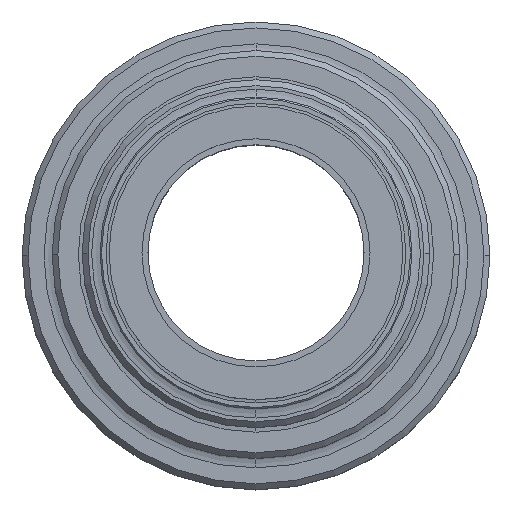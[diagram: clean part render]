
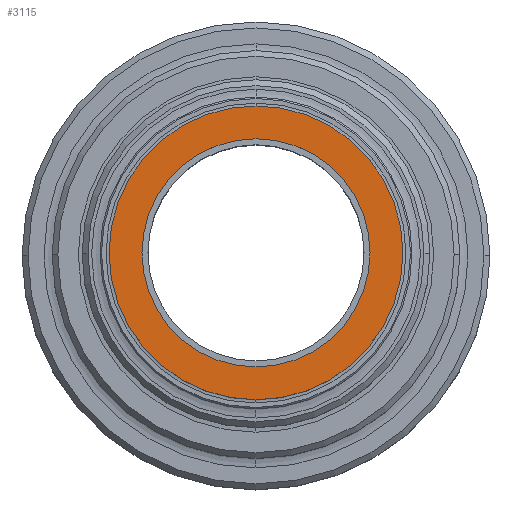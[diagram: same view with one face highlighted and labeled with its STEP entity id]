
A CAD part, top view. The second image highlights one B-rep face of the part: STEP entity #3115.
In plain terms, the highlighted planar face has unit normal (0, 0, 1).
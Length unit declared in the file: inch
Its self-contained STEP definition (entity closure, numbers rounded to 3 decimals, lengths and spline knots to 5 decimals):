
#847=CARTESIAN_POINT('',(0.,0.,19.4385));
#848=DIRECTION('',(0.,0.,1.));
#849=DIRECTION('',(0.,1.,0.));
#850=AXIS2_PLACEMENT_3D('',#847,#848,#849);
#852=CARTESIAN_POINT('',(0.,0.,19.4385));
#853=DIRECTION('',(0.,0.,1.));
#854=DIRECTION('',(0.,-1.,0.));
#855=AXIS2_PLACEMENT_3D('',#852,#853,#854);
#857=CARTESIAN_POINT('',(0.,0.,19.4385));
#858=DIRECTION('',(0.,0.,1.));
#859=DIRECTION('',(0.,1.,0.));
#860=AXIS2_PLACEMENT_3D('',#857,#858,#859);
#862=CARTESIAN_POINT('',(0.,0.,19.4385));
#863=DIRECTION('',(0.,0.,1.));
#864=DIRECTION('',(0.,-1.,0.));
#865=AXIS2_PLACEMENT_3D('',#862,#863,#864);
#1690=CARTESIAN_POINT('',(0.,1.531,19.4385));
#1691=CARTESIAN_POINT('',(0.,-1.531,19.4385));
#1692=VERTEX_POINT('',#1690);
#1693=VERTEX_POINT('',#1691);
#1794=CARTESIAN_POINT('',(0.,1.18875,19.4385));
#1795=CARTESIAN_POINT('',(0.,-1.18875,19.4385));
#1796=VERTEX_POINT('',#1794);
#1797=VERTEX_POINT('',#1795);
#3100=CARTESIAN_POINT('',(0.,0.,19.4385));
#3101=DIRECTION('',(0.,0.,1.));
#3102=DIRECTION('',(1.,0.,0.));
#3103=AXIS2_PLACEMENT_3D('',#3100,#3101,#3102);
#3104=PLANE('',#3103);
#3105=ORIENTED_EDGE('',*,*,#3067,.F.);
#3106=ORIENTED_EDGE('',*,*,#3082,.F.);
#3107=EDGE_LOOP('',(#3105,#3106));
#3108=FACE_OUTER_BOUND('',#3107,.F.);
#3110=ORIENTED_EDGE('',*,*,#3109,.T.);
#3112=ORIENTED_EDGE('',*,*,#3111,.T.);
#3113=EDGE_LOOP('',(#3110,#3112));
#3114=FACE_BOUND('',#3113,.F.);
#3115=ADVANCED_FACE('',(#3108,#3114),#3104,.T.);
#851=CIRCLE('',#850,1.531);
#856=CIRCLE('',#855,1.531);
#861=CIRCLE('',#860,1.18875);
#866=CIRCLE('',#865,1.18875);
#3067=EDGE_CURVE('',#1692,#1693,#851,.T.);
#3082=EDGE_CURVE('',#1693,#1692,#856,.T.);
#3109=EDGE_CURVE('',#1796,#1797,#861,.T.);
#3111=EDGE_CURVE('',#1797,#1796,#866,.T.);
